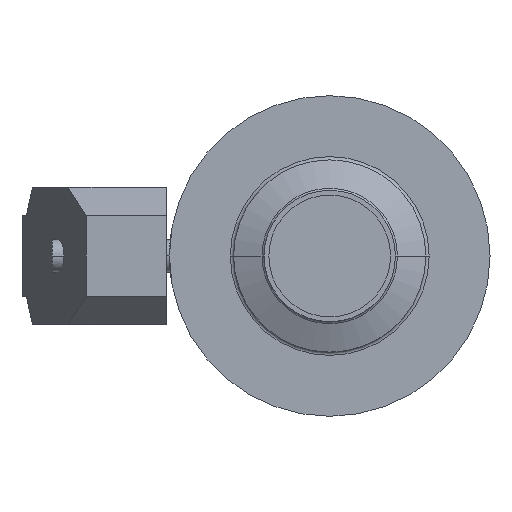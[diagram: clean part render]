
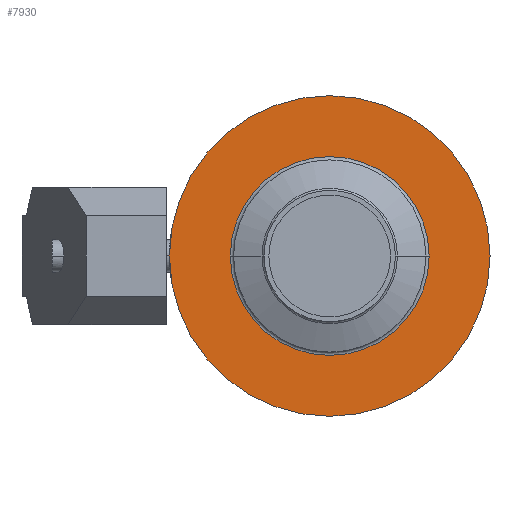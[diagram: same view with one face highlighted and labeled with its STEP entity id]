
A CAD part, left-side view. The second image highlights one B-rep face of the part: STEP entity #7930.
In plain terms, the highlighted planar face has unit normal (-1, 0, 0).
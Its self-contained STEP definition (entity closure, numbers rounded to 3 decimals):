
#7450=CARTESIAN_POINT('',(-108.686,-40.688,
0.));
#7460=VERTEX_POINT('',#7450);
#7540=CARTESIAN_POINT('',(-108.686,59.312,0.));
#7550=VERTEX_POINT('',#7540);
#7580=CARTESIAN_POINT('',(-108.686,9.312,0.));
#7590=DIRECTION('',(-1.,0.,0.));
#7600=DIRECTION('',(0.,1.,0.));
#7610=AXIS2_PLACEMENT_3D('',#7580,#7590,#7600);
#7620=CIRCLE('',#7610,50.);
#7630=EDGE_CURVE('',#7550,#7460,#7620,.T.);
#7680=CARTESIAN_POINT('',(-108.686,50.312,0.));
#7690=DIRECTION('',(1.,0.,0.));
#7700=DIRECTION('',(0.,-1.,0.));
#7710=AXIS2_PLACEMENT_3D('',#7680,#7690,#7700);
#7720=PLANE('',#7710);
#7730=EDGE_CURVE('',#7460,#7550,#7620,.T.);
#7740=ORIENTED_EDGE('',*,*,#7730,.T.);
#7750=ORIENTED_EDGE('',*,*,#7630,.T.);
#7760=EDGE_LOOP('',(#7750,#7740));
#7770=FACE_OUTER_BOUND('',#7760,.T.);
#7780=CARTESIAN_POINT('',(-108.686,9.312,0.));
#7790=DIRECTION('',(-1.,0.,0.));
#7800=DIRECTION('',(0.,1.,0.));
#7810=AXIS2_PLACEMENT_3D('',#7780,#7790,#7800);
#7820=CIRCLE('',#7810,31.);
#7830=CARTESIAN_POINT('',(-108.686,40.312,0.));
#7840=VERTEX_POINT('',#7830);
#7850=CARTESIAN_POINT('',(-108.686,-21.688,0.));
#7860=VERTEX_POINT('',#7850);
#7870=EDGE_CURVE('',#7840,#7860,#7820,.T.);
#7880=ORIENTED_EDGE('',*,*,#7870,.F.);
#7890=EDGE_CURVE('',#7860,#7840,#7820,.T.);
#7900=ORIENTED_EDGE('',*,*,#7890,.F.);
#7910=EDGE_LOOP('',(#7900,#7880));
#7920=FACE_BOUND('',#7910,.T.);
#7930=ADVANCED_FACE('',(#7770,#7920),#7720,.F.);
